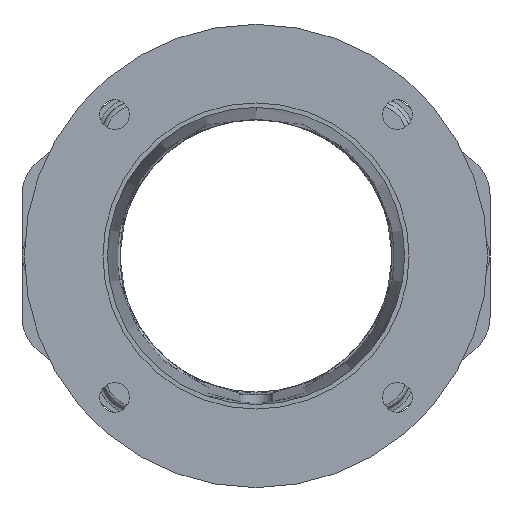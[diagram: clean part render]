
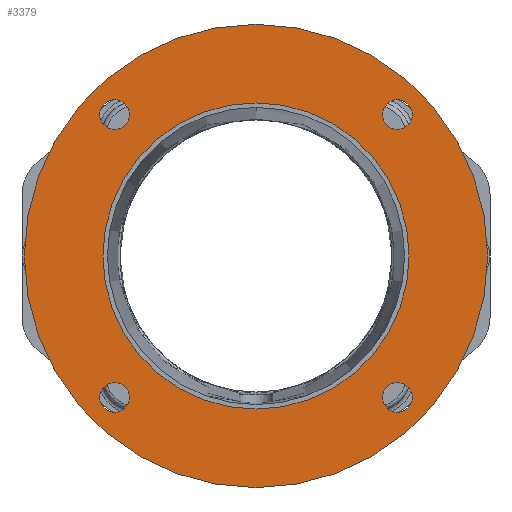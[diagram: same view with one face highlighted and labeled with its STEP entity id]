
A CAD part, front view. The second image highlights one B-rep face of the part: STEP entity #3379.
In plain terms, the highlighted planar face has unit normal (0, -1, 0).
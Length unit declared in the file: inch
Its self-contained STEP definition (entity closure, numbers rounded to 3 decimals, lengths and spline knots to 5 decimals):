
#1615 = DIRECTION ( 'NONE',  ( 0., 0., -1. ) ) ;
#1616 = DIRECTION ( 'NONE',  ( 0., -1., 0. ) ) ;
#1617 = CARTESIAN_POINT ( 'NONE',  ( 2.07889, 0., 2.07889 ) ) ;
#1618 = AXIS2_PLACEMENT_3D ( 'NONE', #1617, #1616, #1615 ) ;
#1619 = CIRCLE ( 'NONE', #1618, 0.21875 ) ;
#3263 = ORIENTED_EDGE ( 'NONE', *, *, #8879, .F. ) ;
#3375 = ORIENTED_EDGE ( 'NONE', *, *, #9122, .F. ) ;
#3376 = ORIENTED_EDGE ( 'NONE', *, *, #9083, .F. ) ;
#3377 = EDGE_CURVE ( 'NONE', #9086, #9084, #5452, .T. ) ;
#3378 = ORIENTED_EDGE ( 'NONE', *, *, #3377, .F. ) ;
#3379 = ADVANCED_FACE ( 'NONE', ( #5447, #5446, #5445, #5444, #5443, #5442 ), #5441, .F. ) ;
#3380 = EDGE_LOOP ( 'NONE', ( #3381, #3657 ) ) ;
#3381 = ORIENTED_EDGE ( 'NONE', *, *, #3656, .F. ) ;
#3498 = EDGE_LOOP ( 'NONE', ( #3263, #8413 ) ) ;
#3656 = EDGE_CURVE ( 'NONE', #9074, #9120, #6499, .T. ) ;
#3657 = ORIENTED_EDGE ( 'NONE', *, *, #9148, .F. ) ;
#3658 = EDGE_LOOP ( 'NONE', ( #3662, #3375 ) ) ;
#3659 = EDGE_CURVE ( 'NONE', #9073, #9110, #6494, .T. ) ;
#3660 = EDGE_LOOP ( 'NONE', ( #3378, #3376 ) ) ;
#3661 = EDGE_CURVE ( 'NONE', #9123, #9303, #6489, .T. ) ;
#3662 = ORIENTED_EDGE ( 'NONE', *, *, #3661, .F. ) ;
#4211 = DIRECTION ( 'NONE',  ( 0., 0., -1. ) ) ;
#4212 = DIRECTION ( 'NONE',  ( 0., -1., 0. ) ) ;
#4213 = AXIS2_PLACEMENT_3D ( 'NONE', #4301, #4212, #4211 ) ;
#4301 = CARTESIAN_POINT ( 'NONE',  ( 0., 0., 0. ) ) ;
#4302 = CIRCLE ( 'NONE', #4213, 2.2505 ) ;
#5436 = DIRECTION ( 'NONE',  ( 0., 0., 1. ) ) ;
#5437 = DIRECTION ( 'NONE',  ( 0., 1., 0. ) ) ;
#5438 = CARTESIAN_POINT ( 'NONE',  ( -2.19153, 0., 0. ) ) ;
#5440 = AXIS2_PLACEMENT_3D ( 'NONE', #5438, #5437, #5436 ) ;
#5441 = PLANE ( 'NONE',  #5440 ) ;
#5442 = FACE_OUTER_BOUND ( 'NONE', #8846, .T. ) ;
#5443 = FACE_BOUND ( 'NONE', #8878, .T. ) ;
#5444 = FACE_BOUND ( 'NONE', #3498, .T. ) ;
#5445 = FACE_BOUND ( 'NONE', #3658, .T. ) ;
#5446 = FACE_BOUND ( 'NONE', #3380, .T. ) ;
#5447 = FACE_BOUND ( 'NONE', #3660, .T. ) ;
#5448 = DIRECTION ( 'NONE',  ( 0., 0., -1. ) ) ;
#5449 = DIRECTION ( 'NONE',  ( 0., -1., 0. ) ) ;
#5450 = CARTESIAN_POINT ( 'NONE',  ( 2.07889, 0., -2.07889 ) ) ;
#5451 = AXIS2_PLACEMENT_3D ( 'NONE', #5450, #5449, #5448 ) ;
#5452 = CIRCLE ( 'NONE', #5451, 0.21875 ) ;
#6485 = DIRECTION ( 'NONE',  ( 0., 0., -1. ) ) ;
#6486 = DIRECTION ( 'NONE',  ( 0., -1., 0. ) ) ;
#6487 = CARTESIAN_POINT ( 'NONE',  ( -2.07889, 0., 2.07889 ) ) ;
#6488 = AXIS2_PLACEMENT_3D ( 'NONE', #6487, #6486, #6485 ) ;
#6489 = CIRCLE ( 'NONE', #6488, 0.21875 ) ;
#6490 = DIRECTION ( 'NONE',  ( 0., 0., -1. ) ) ;
#6491 = DIRECTION ( 'NONE',  ( 0., -1., 0. ) ) ;
#6492 = CARTESIAN_POINT ( 'NONE',  ( 0., 0., 0. ) ) ;
#6493 = AXIS2_PLACEMENT_3D ( 'NONE', #6492, #6491, #6490 ) ;
#6494 = CIRCLE ( 'NONE', #6493, 3.405 ) ;
#6495 = DIRECTION ( 'NONE',  ( 0., 0., -1. ) ) ;
#6496 = DIRECTION ( 'NONE',  ( 0., -1., 0. ) ) ;
#6497 = CARTESIAN_POINT ( 'NONE',  ( -2.07889, 0., -2.07889 ) ) ;
#6498 = AXIS2_PLACEMENT_3D ( 'NONE', #6497, #6496, #6495 ) ;
#6499 = CIRCLE ( 'NONE', #6498, 0.21875 ) ;
#7018 = DIRECTION ( 'NONE',  ( 0., 0., -1. ) ) ;
#7019 = DIRECTION ( 'NONE',  ( 0., -1., 0. ) ) ;
#7020 = AXIS2_PLACEMENT_3D ( 'NONE', #7061, #7019, #7018 ) ;
#7021 = CIRCLE ( 'NONE', #7020, 0.21875 ) ;
#7061 = CARTESIAN_POINT ( 'NONE',  ( -2.07889, 0., -2.07889 ) ) ;
#7295 = CARTESIAN_POINT ( 'NONE',  ( 2.07889, 0., 1.86014 ) ) ;
#7296 = DIRECTION ( 'NONE',  ( 0., 0., -1. ) ) ;
#7297 = DIRECTION ( 'NONE',  ( 0., -1., 0. ) ) ;
#7298 = CARTESIAN_POINT ( 'NONE',  ( 2.07889, 0., 2.07889 ) ) ;
#7299 = AXIS2_PLACEMENT_3D ( 'NONE', #7298, #7297, #7296 ) ;
#7300 = CIRCLE ( 'NONE', #7299, 0.21875 ) ;
#7301 = CARTESIAN_POINT ( 'NONE',  ( 2.07889, 0., 2.29764 ) ) ;
#7362 = CARTESIAN_POINT ( 'NONE',  ( 0., 0., 2.2505 ) ) ;
#7437 = CARTESIAN_POINT ( 'NONE',  ( -2.07889, 0., 2.29764 ) ) ;
#7525 = CARTESIAN_POINT ( 'NONE',  ( -2.07889, 0., 1.86014 ) ) ;
#7526 = DIRECTION ( 'NONE',  ( 0., 0., -1. ) ) ;
#7527 = DIRECTION ( 'NONE',  ( 0., -1., 0. ) ) ;
#7528 = CARTESIAN_POINT ( 'NONE',  ( -2.07889, 0., 2.07889 ) ) ;
#7529 = AXIS2_PLACEMENT_3D ( 'NONE', #7528, #7527, #7526 ) ;
#7530 = CIRCLE ( 'NONE', #7529, 0.21875 ) ;
#7531 = CARTESIAN_POINT ( 'NONE',  ( -2.07889, 0., -1.86014 ) ) ;
#7580 = CARTESIAN_POINT ( 'NONE',  ( 0., 0., -3.405 ) ) ;
#7581 = DIRECTION ( 'NONE',  ( 0., 0., -1. ) ) ;
#7582 = DIRECTION ( 'NONE',  ( 0., -1., 0. ) ) ;
#7583 = CARTESIAN_POINT ( 'NONE',  ( 0., 0., 0. ) ) ;
#7584 = AXIS2_PLACEMENT_3D ( 'NONE', #7583, #7582, #7581 ) ;
#7585 = CIRCLE ( 'NONE', #7584, 3.405 ) ;
#7633 = CARTESIAN_POINT ( 'NONE',  ( -2.07889, 0., -2.29764 ) ) ;
#7634 = CARTESIAN_POINT ( 'NONE',  ( 0., 0., 3.405 ) ) ;
#7652 = CARTESIAN_POINT ( 'NONE',  ( 0., 0., -2.2505 ) ) ;
#7653 = DIRECTION ( 'NONE',  ( 0., 0., -1. ) ) ;
#7654 = DIRECTION ( 'NONE',  ( 0., -1., 0. ) ) ;
#7655 = CARTESIAN_POINT ( 'NONE',  ( 0., 0., 0. ) ) ;
#7656 = AXIS2_PLACEMENT_3D ( 'NONE', #7655, #7654, #7653 ) ;
#7657 = CIRCLE ( 'NONE', #7656, 2.2505 ) ;
#7668 = CARTESIAN_POINT ( 'NONE',  ( 2.07889, 0., -2.29764 ) ) ;
#7669 = CARTESIAN_POINT ( 'NONE',  ( 2.07889, 0., -1.86014 ) ) ;
#7670 = DIRECTION ( 'NONE',  ( 0., 0., -1. ) ) ;
#7671 = DIRECTION ( 'NONE',  ( 0., -1., 0. ) ) ;
#7672 = CARTESIAN_POINT ( 'NONE',  ( 2.07889, 0., -2.07889 ) ) ;
#7673 = AXIS2_PLACEMENT_3D ( 'NONE', #7672, #7671, #7670 ) ;
#7674 = CIRCLE ( 'NONE', #7673, 0.21875 ) ;
#8413 = ORIENTED_EDGE ( 'NONE', *, *, #9270, .F. ) ;
#8433 = EDGE_CURVE ( 'NONE', #9064, #9314, #4302, .T. ) ;
#8435 = ORIENTED_EDGE ( 'NONE', *, *, #8433, .F. ) ;
#8846 = EDGE_LOOP ( 'NONE', ( #8881, #8877 ) ) ;
#8877 = ORIENTED_EDGE ( 'NONE', *, *, #3659, .T. ) ;
#8878 = EDGE_LOOP ( 'NONE', ( #8435, #8880 ) ) ;
#8879 = EDGE_CURVE ( 'NONE', #9271, #9268, #1619, .T. ) ;
#8880 = ORIENTED_EDGE ( 'NONE', *, *, #9063, .F. ) ;
#8881 = ORIENTED_EDGE ( 'NONE', *, *, #9109, .T. ) ;
#9063 = EDGE_CURVE ( 'NONE', #9314, #9064, #7657, .T. ) ;
#9064 = VERTEX_POINT ( 'NONE', #7652 ) ;
#9073 = VERTEX_POINT ( 'NONE', #7634 ) ;
#9074 = VERTEX_POINT ( 'NONE', #7633 ) ;
#9083 = EDGE_CURVE ( 'NONE', #9084, #9086, #7674, .T. ) ;
#9084 = VERTEX_POINT ( 'NONE', #7669 ) ;
#9086 = VERTEX_POINT ( 'NONE', #7668 ) ;
#9109 = EDGE_CURVE ( 'NONE', #9110, #9073, #7585, .T. ) ;
#9110 = VERTEX_POINT ( 'NONE', #7580 ) ;
#9120 = VERTEX_POINT ( 'NONE', #7531 ) ;
#9122 = EDGE_CURVE ( 'NONE', #9303, #9123, #7530, .T. ) ;
#9123 = VERTEX_POINT ( 'NONE', #7525 ) ;
#9148 = EDGE_CURVE ( 'NONE', #9120, #9074, #7021, .T. ) ;
#9268 = VERTEX_POINT ( 'NONE', #7301 ) ;
#9270 = EDGE_CURVE ( 'NONE', #9268, #9271, #7300, .T. ) ;
#9271 = VERTEX_POINT ( 'NONE', #7295 ) ;
#9303 = VERTEX_POINT ( 'NONE', #7437 ) ;
#9314 = VERTEX_POINT ( 'NONE', #7362 ) ;
